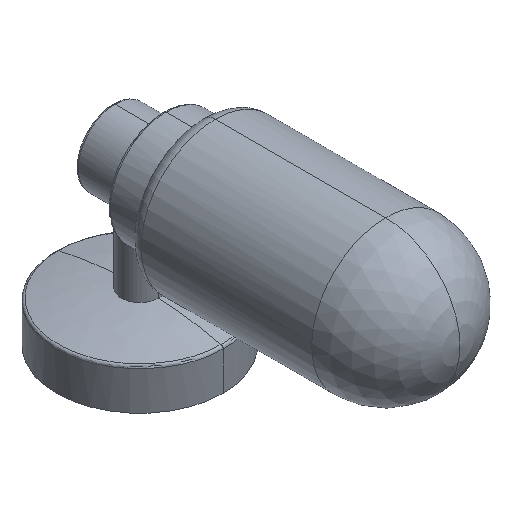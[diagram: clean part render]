
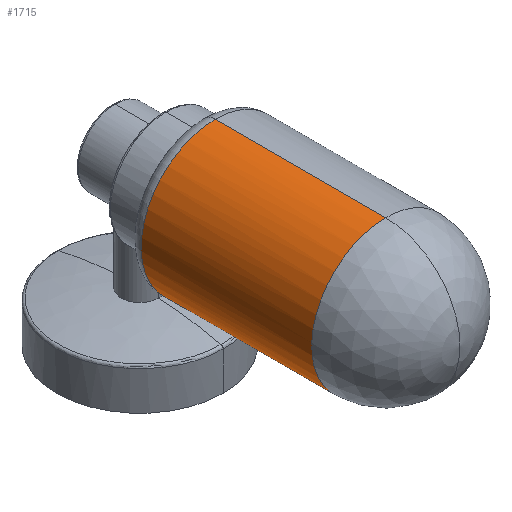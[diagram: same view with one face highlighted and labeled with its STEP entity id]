
A CAD part, isometric view. The second image highlights one B-rep face of the part: STEP entity #1715.
In plain terms, the highlighted cylindrical face has radius 39.992 mm (diameter 79.984 mm), a partial arc.
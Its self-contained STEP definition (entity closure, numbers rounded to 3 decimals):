
#58=B_SPLINE_CURVE_WITH_KNOTS('',3,(#2748,#2749,#2750,#2751,#2752,#2753,
#2754,#2755,#2756),.UNSPECIFIED.,.F.,.F.,(4,1,1,1,1,1,4),(0.,0.167,
0.333,0.5,0.667,0.833,1.),
 .UNSPECIFIED.);
#59=B_SPLINE_CURVE_WITH_KNOTS('',3,(#2757,#2758,#2759,#2760,#2761,#2762,
#2763,#2764,#2765),.UNSPECIFIED.,.F.,.F.,(4,1,1,1,1,1,4),(0.,0.167,
0.333,0.5,0.667,0.833,1.),
 .UNSPECIFIED.);
#251=CYLINDRICAL_SURFACE('',#1855,39.992);
#311=FACE_OUTER_BOUND('',#421,.T.);
#421=EDGE_LOOP('',(#1300,#1301,#1302,#1303));
#542=LINE('',#2735,#637);
#543=LINE('',#2746,#638);
#637=VECTOR('',#2147,304.8);
#638=VECTOR('',#2148,304.8);
#732=VERTEX_POINT('',#2723);
#733=VERTEX_POINT('',#2724);
#734=VERTEX_POINT('',#2734);
#735=VERTEX_POINT('',#2736);
#938=EDGE_CURVE('',#734,#732,#542,.T.);
#940=EDGE_CURVE('',#733,#735,#543,.T.);
#941=EDGE_CURVE('',#733,#732,#58,.T.);
#942=EDGE_CURVE('',#734,#735,#59,.T.);
#1300=ORIENTED_EDGE('',*,*,#941,.F.);
#1301=ORIENTED_EDGE('',*,*,#940,.T.);
#1302=ORIENTED_EDGE('',*,*,#942,.F.);
#1303=ORIENTED_EDGE('',*,*,#938,.T.);
#1715=ADVANCED_FACE('',(#311),#251,.T.);
#1855=AXIS2_PLACEMENT_3D('',#2747,#2149,#2150);
#2147=DIRECTION('',(0.,-1.,0.));
#2148=DIRECTION('',(0.,1.,0.));
#2149=DIRECTION('center_axis',(0.,-1.,0.));
#2150=DIRECTION('ref_axis',(0.,0.,
1.));
#2723=CARTESIAN_POINT('',(0.,-132.739,45.908));
#2724=CARTESIAN_POINT('',(0.,-132.739,125.892));
#2734=CARTESIAN_POINT('',(0.,-40.727,45.908));
#2735=CARTESIAN_POINT('',(0.,-40.727,45.908));
#2736=CARTESIAN_POINT('',(0.,-40.727,125.892));
#2746=CARTESIAN_POINT('',(0.,-132.739,125.892));
#2747=CARTESIAN_POINT('Origin',(0.,179.179,85.9));
#2748=CARTESIAN_POINT('Ctrl Pts',(0.,-132.739,125.892));
#2749=CARTESIAN_POINT('Ctrl Pts',(-7.066,-132.739,126.049));
#2750=CARTESIAN_POINT('Ctrl Pts',(-20.889,-132.739,122.081));
#2751=CARTESIAN_POINT('Ctrl Pts',(-36.265,-132.739,106.849));
#2752=CARTESIAN_POINT('Ctrl Pts',(-41.855,-132.739,85.9));
#2753=CARTESIAN_POINT('Ctrl Pts',(-36.265,-132.739,64.951));
#2754=CARTESIAN_POINT('Ctrl Pts',(-20.889,-132.739,49.719));
#2755=CARTESIAN_POINT('Ctrl Pts',(-7.066,-132.739,45.751));
#2756=CARTESIAN_POINT('Ctrl Pts',(0.,-132.739,
45.908));
#2757=CARTESIAN_POINT('Ctrl Pts',(0.,-40.727,
45.908));
#2758=CARTESIAN_POINT('Ctrl Pts',(-7.066,-40.727,45.751));
#2759=CARTESIAN_POINT('Ctrl Pts',(-20.889,-40.727,49.719));
#2760=CARTESIAN_POINT('Ctrl Pts',(-36.265,-40.727,64.951));
#2761=CARTESIAN_POINT('Ctrl Pts',(-41.855,-40.727,85.9));
#2762=CARTESIAN_POINT('Ctrl Pts',(-36.265,-40.727,106.849));
#2763=CARTESIAN_POINT('Ctrl Pts',(-20.889,-40.727,122.081));
#2764=CARTESIAN_POINT('Ctrl Pts',(-7.066,-40.727,126.049));
#2765=CARTESIAN_POINT('Ctrl Pts',(0.,-40.727,
125.892));
